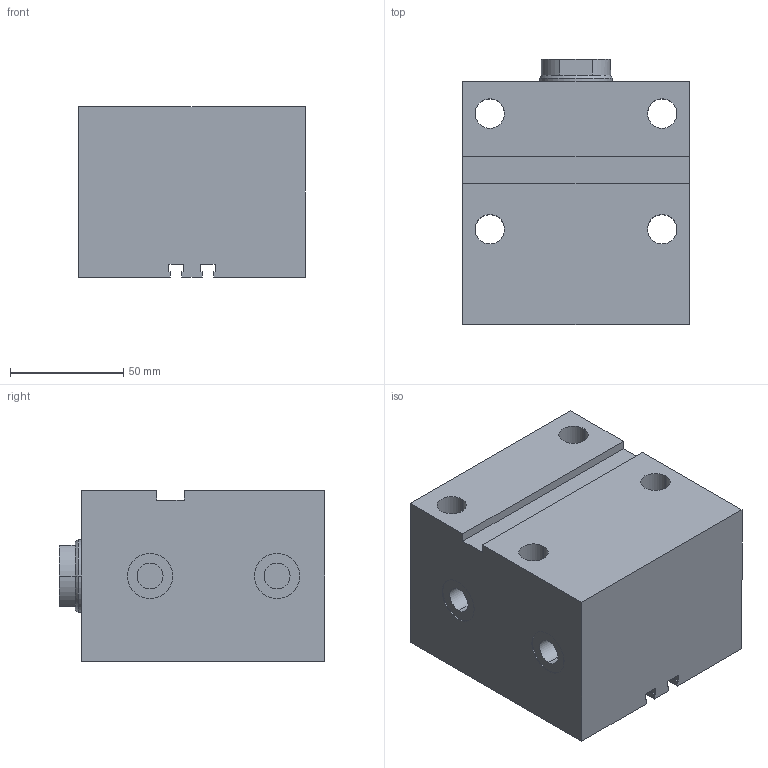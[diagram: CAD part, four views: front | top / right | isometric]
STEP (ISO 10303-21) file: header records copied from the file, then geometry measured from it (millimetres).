
FILE_DESCRIPTION (( 'STEP AP203' ), '1' );
FILE_NAME ('GERMA_Blockzylinder_701-050-025.STEP', '2016-07-23T13:11:37', ( '' ), ( '' ), 'SwSTEP 2.0', 'SolidWorks 2015', '' );
FILE_SCHEMA (( 'CONFIG_CONTROL_DESIGN' ));
Length unit declared in the file: millimetre
Products named in the file (3): GH-700-050_GH-701-050-025; Kolben_MT 70x-050_Kolben_MT DU.50-Hub25-IG; GERMA_Blockzylinder_701-050-025
Assembly tree (2 placements, depth 2):
  GERMA_Blockzylinder_701-050-025
    GH-700-050_GH-701-050-025
    Kolben_MT 70x-050_Kolben_MT DU.50-Hub25-IG
Bounding box: 100 x 117 x 75 mm (x, y, z)
Volume: 715529.5 mm3; surface area: 101381.3 mm2
Topology: 2 solids, 2 shells, 96 faces, 226 edges, 142 vertices
Faces by surface type: plane 43, cylinder 39, cone 14
Entity records: 3042 total; most frequent: DIRECTION 511, CARTESIAN_POINT 463, ORIENTED_EDGE 440, EDGE_CURVE 220, AXIS2_PLACEMENT_3D 190, VERTEX_POINT 142, LINE 131, VECTOR 131
